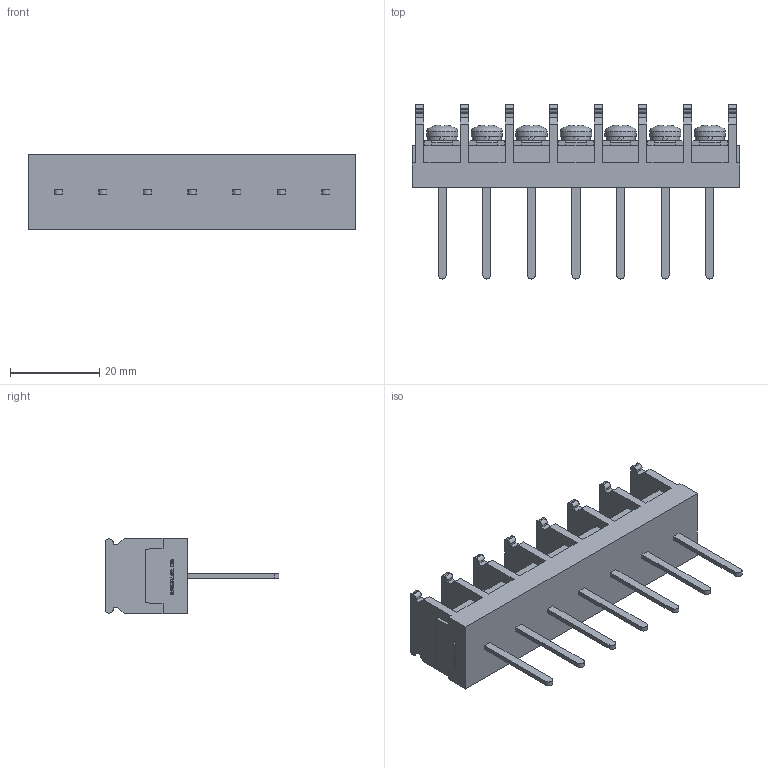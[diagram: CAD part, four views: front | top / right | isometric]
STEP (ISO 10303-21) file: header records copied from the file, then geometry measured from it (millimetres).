
FILE_DESCRIPTION(/* description */ ('Alibre Inc.'),/* implementation_level */ '2;1');
FILE_NAME(/* name */ 'export0',/* time_stamp */ '2015-10-17T17:16:15+09:00',/* author */ (''),/* organization */ (''),/* preprocessor_version */ 'ST-DEVELOPER v14',/* originating_system */ 'Alibre',/* authorisation */ '');
FILE_SCHEMA (('CONFIG_CONTROL_DESIGN'));
Length unit declared in the file: centimetre
Products named in the file (1): ID_1
Bounding box: 73.4 x 39 x 17 mm (x, y, z)
Volume: 14249.2 mm3; surface area: 8935.8 mm2
Topology: 1 solids, 17 shells, 877 faces, 2385 edges, 1583 vertices
Faces by surface type: plane 650, bspline 104, cylinder 74, cone 28, torus 14, sphere 7
Full cylindrical faces by diameter (mm): 4 x7, 6.5 x7, 7 x7
Entity records: 26778 total; most frequent: CARTESIAN_POINT 5930, ORIENTED_EDGE 4672, DIRECTION 3320, EDGE_CURVE 2336, VECTOR 1716, LINE 1716, VERTEX_POINT 1562, AXIS2_PLACEMENT_3D 1124
